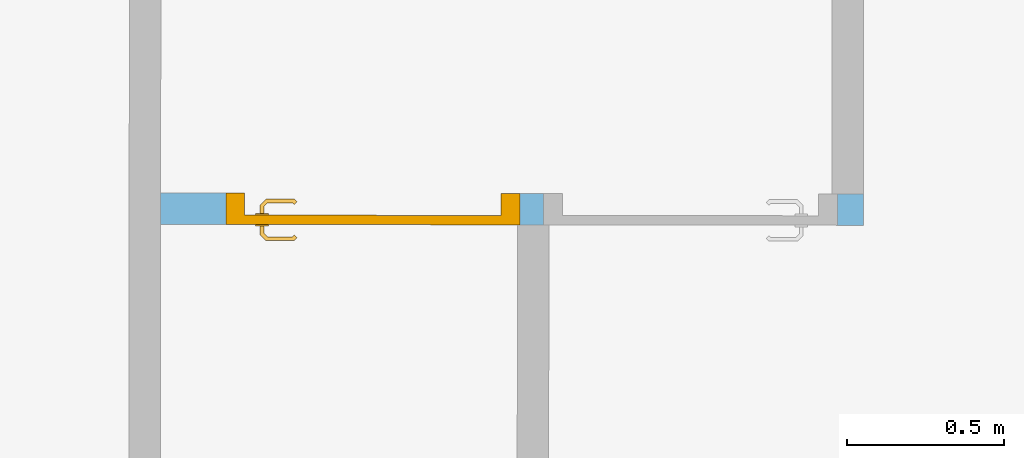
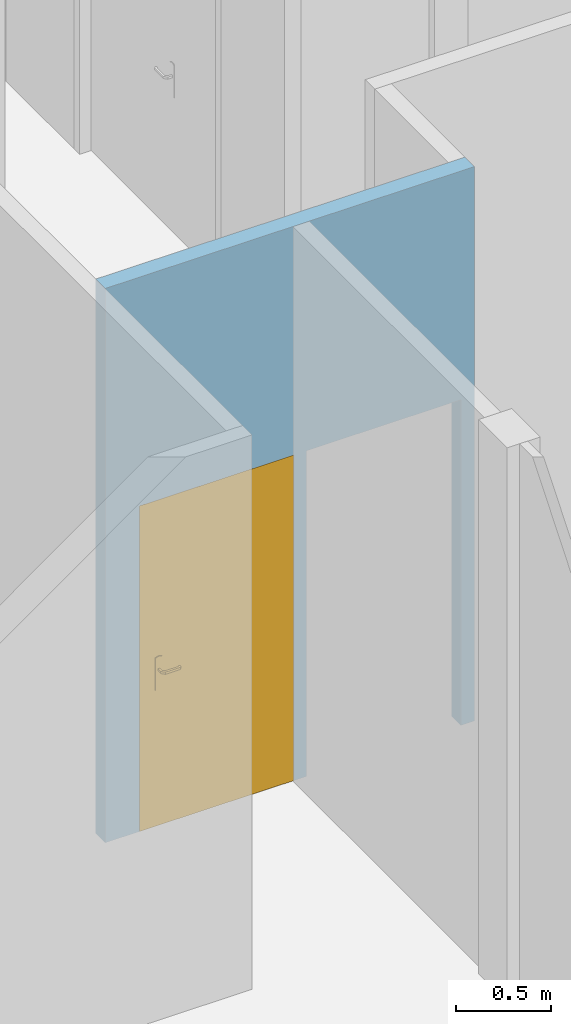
# One storey, part 43 of 101: 1 door, 2 openings, plus 1 element that does not belong to this part.
"""IFC2X3 building model written with IfcOpenShell, lengths in metres."""

from ifc_helpers import new_model, entity, si_unit, converted_unit, derived_unit, direction, frame, frame_2d, origin, place, context, subcontext, project, spatial, rectangle, extrude, faceted_brep, source, transform, mapped, material, material_list, layer, layer_set, layer_usage, type_object, type_shapes, element, fill, save


model = new_model("IFC2X3")

# Units and contexts
model_context = context("Model", 3, precision=1e-05, world=origin(), true_north=direction((6.123233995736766e-17, 1.0)))
body_context = subcontext(model_context, "Body", "Model", "MODEL_VIEW")
ifc_project = project(units=[si_unit("LENGTHUNIT", "METRE"), si_unit("AREAUNIT", "SQUARE_METRE"), converted_unit("PLANEANGLEUNIT", "DEGREE", entity("IfcPlaneAngleMeasure", 0.017453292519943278), si_unit("PLANEANGLEUNIT", "RADIAN"), dimensions=[0, 0, 0, 0, 0, 0, 0]), derived_unit("THERMALTRANSMITTANCEUNIT", [(si_unit("MASSUNIT", "GRAM", prefix="KILO"), 1), (si_unit("THERMODYNAMICTEMPERATUREUNIT", "KELVIN"), -1), (si_unit("TIMEUNIT", "SECOND"), -3)])], contexts=[model_context])

# Site, building, storey
site_placement = place(None, frame((1253.6752467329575, 2072.143113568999, 91.49999999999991), z_axis=(0.0, 0.0, 1.0), x_axis=(0.7237211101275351, 0.6900925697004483, 0.0)))
site = spatial("IfcSite", under=ifc_project, at=site_placement, Name="Surface", CompositionType="ELEMENT")
building_placement = place(site_placement, origin())
building = spatial("IfcBuilding", under=site, at=building_placement, CompositionType="ELEMENT")
storey_placement = place(building_placement, origin())
storey = spatial("IfcBuildingStorey", under=building, at=storey_placement, Name="0- Rdc", CompositionType="ELEMENT", Elevation=-5.764692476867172e-13)

# Wall, openings, door
ifc_material_1 = material(Name="OMD_Béton blanc")
ifc_layer = layer(ifc_material_1, 0.1)
ifc_layer_set = layer_set([ifc_layer], Name="Mur de base:MUR 10")
ifc_layer_usage = layer_usage(ifc_layer_set, "AXIS2", "NEGATIVE", 0.05)
wall_type = type_object("IfcWallType", Name="Mur de base:MUR 10", PredefinedType="STANDARD", material=ifc_layer_set)
wall_placement = place(storey_placement, frame((152.6208609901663, 3.9575793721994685, 0.0), z_axis=(0.0, 0.0, 1.0), x_axis=(-0.7228702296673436, 0.6909838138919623, 0.0)))
wall = element("IfcWallStandardCase", 1, at=wall_placement, inside=storey, type_object=wall_type, material=ifc_layer_usage, Name="Mur de base:MUR 10", ObjectType="Mur de base:MUR 10", context=body_context, shape_type="SweptSolid", body=[
    extrude(rectangle(XDim=2.235000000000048, YDim=0.10000000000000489, at=frame_2d((1.117500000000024, -1.0408340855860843e-15), x_axis=(-1.0, 0.0))), origin(), (0.0, 0.0, 1.0), 3.5499999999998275),
])
opening_1_placement = place(wall_placement, frame((0.08250000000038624, -0.05000000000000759, 0.0)))
element("IfcOpeningElement", 2, at=opening_1_placement, cuts=wall, Name="OMD_Porte 1V tunnel:80x204:1", ObjectType="Opening", context=body_context, shape_type="SweptSolid", body=[
    extrude(rectangle(XDim=2.0850000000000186, YDim=0.9349999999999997, at=frame_2d((1.0425000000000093, 0.4675000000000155), x_axis=(1.0, 0.0))), frame((0.0, 0.0, 0.0), z_axis=(0.0, 1.0, 0.0), x_axis=(0.0, 0.0, 1.0)), (0.0, 0.0, 1.0), 0.1),
])
opening_2_placement = place(wall_placement, frame((1.0925000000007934, -0.050000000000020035, 0.0)))
opening_2 = element("IfcOpeningElement", 3, at=opening_2_placement, cuts=wall, Name="OMD_Porte 1V tunnel:80x204:1", ObjectType="Opening", context=body_context, shape_type="SweptSolid", body=[
    extrude(rectangle(XDim=2.0850000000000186, YDim=0.9349999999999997, at=frame_2d((1.0425000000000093, 0.46749999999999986), x_axis=(1.0, 0.0))), frame((0.0, 0.0, 0.0), z_axis=(0.0, 1.0, 0.0), x_axis=(0.0, 0.0, 1.0)), (0.0, 0.0, 1.0), 0.1),
])
ifc_material_2 = material(Name="Porte - Poignée")
ifc_material_3 = material(Name="OMD_Peinture mur")
ifc_material_4 = material(Name="OMD_Bois")
ifc_material_list = material_list([ifc_material_2, ifc_material_3, ifc_material_4])
door_style = type_object("IfcDoorStyle", Name="OMD_Porte 1V tunnel:80x204", ConstructionType="NOTDEFINED", OperationType="NOTDEFINED", ParameterTakesPrecedence=False, Sizeable=False, material=ifc_material_list)
shared_shape = source(origin(), body_context, "Body", "Brep", [
    faceted_brep([(0.21297470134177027, 0.03500000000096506, 1.0077804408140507), (0.20900000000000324, 0.03500000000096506, 1.0069999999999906), (0.208999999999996, 0.03500000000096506, 0.9929999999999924), (0.21297470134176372, 0.03500000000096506, 0.9922195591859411), (0.21702529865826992, 0.03500000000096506, 0.9922195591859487), (0.22100000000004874, 0.03500000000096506, 0.9930000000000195), (0.22100000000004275, 0.03500000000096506, 1.0069999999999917), (0.2170252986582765, 0.03500000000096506, 1.007780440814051), (0.22100000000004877, 0.05748520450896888, 0.9930000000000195), (0.22100000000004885, 0.057485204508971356, 1.0069999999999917), (0.21702529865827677, 0.059131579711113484, 1.007780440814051), (0.23083890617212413, 0.07294518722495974, 1.007780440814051), (0.2291610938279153, 0.07699578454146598, 1.0077804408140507), (0.21297470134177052, 0.060809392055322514, 1.0077804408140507), (0.3206847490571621, 0.0664673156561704, 1.0077804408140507), (0.32354895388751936, 0.06933152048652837, 1.0077804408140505), (0.31588468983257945, 0.07699578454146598, 1.0077804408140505), (0.31420687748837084, 0.07294518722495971, 1.0077804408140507), (0.20900000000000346, 0.06245576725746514, 1.0069999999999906), (0.20900000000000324, 0.06245576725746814, 0.9929999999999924), (0.21297470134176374, 0.06080939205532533, 0.9922195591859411), (0.22916109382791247, 0.07699578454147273, 0.9922195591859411), (0.23083890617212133, 0.07294518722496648, 0.9922195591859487), (0.21702529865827, 0.05913157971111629, 0.9922195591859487), (0.32354895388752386, 0.06933152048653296, 0.9922195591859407), (0.3206847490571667, 0.06646731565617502, 0.9922195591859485), (0.3142068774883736, 0.07294518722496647, 0.9922195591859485), (0.3158846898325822, 0.07699578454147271, 0.9922195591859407), (0.23248528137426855, 0.0689704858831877, 0.9930000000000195), (0.23248528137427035, 0.06897048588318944, 1.0069999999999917), (0.22751471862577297, 0.0809704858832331, 1.0069999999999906), (0.22751471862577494, 0.08097048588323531, 0.9929999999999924), (0.2725228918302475, 0.06897048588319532, 0.9930000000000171), (0.3125605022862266, 0.06897048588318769, 0.9930000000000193), (0.31256050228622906, 0.06897048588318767, 1.0069999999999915), (0.2725228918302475, 0.0689704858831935, 1.0069999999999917), (0.2725228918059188, 0.07512492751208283, 1.0078781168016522), (0.31753106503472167, 0.08097048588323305, 1.0069999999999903), (0.2776005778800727, 0.08097048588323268, 1.0069999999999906), (0.31753106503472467, 0.08097048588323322, 0.9929999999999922), (0.2674452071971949, 0.08097048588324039, 0.9929999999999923), (0.2725228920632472, 0.07512492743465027, 0.9921218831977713), (0.317874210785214, 0.06365677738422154, 0.9930000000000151), (0.32635949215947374, 0.07214205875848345, 0.99299999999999), (0.3263594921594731, 0.07214205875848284, 1.0069999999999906), (0.317874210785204, 0.06365677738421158, 1.0069999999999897)], [[[0, 1, 2, 3, 4, 5, 6, 7]], [[6, 5, 8, 9]], [[9, 10, 7, 6]], [[10, 11, 12, 13, 0, 7]], [[14, 15, 16, 17]], [[13, 18, 1, 0]], [[2, 1, 18, 19]], [[19, 20, 3, 2]], [[20, 21, 22, 23, 4, 3]], [[24, 25, 26, 27]], [[23, 8, 5, 4]], [[9, 8, 28, 29]], [[29, 11, 10, 9]], [[12, 30, 18, 13]], [[19, 18, 30, 31]], [[31, 21, 20, 19]], [[22, 28, 8, 23]], [[29, 28, 32, 33, 34, 35]], [[11, 35, 36]], [[16, 37, 38]], [[30, 12, 38]], [[38, 12, 36]], [[36, 35, 17]], [[17, 16, 36]], [[35, 11, 29]], [[34, 17, 35]], [[11, 36, 12]], [[38, 36, 16]], [[31, 30, 38, 37, 39, 40]], [[40, 41, 21]], [[41, 40, 27]], [[21, 31, 40]], [[39, 27, 40]], [[41, 32, 22]], [[22, 21, 41]], [[26, 32, 41]], [[28, 22, 32]], [[32, 26, 33]], [[26, 41, 27]], [[42, 25, 24, 43, 44, 15, 14, 45]], [[34, 33, 42, 45]], [[45, 14, 17, 34]], [[15, 44, 37, 16]], [[39, 37, 44, 43]], [[43, 24, 27, 39]], [[25, 42, 33, 26]]]),
    faceted_brep([(0.21297470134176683, -0.004999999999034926, 1.0077804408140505), (0.2170252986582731, -0.004999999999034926, 1.007780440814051), (0.2210000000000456, -0.004999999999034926, 1.006999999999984), (0.22100000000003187, -0.004999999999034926, 0.9930000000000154), (0.21702529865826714, -0.004999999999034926, 0.9922195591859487), (0.21297470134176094, -0.004999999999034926, 0.992219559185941), (0.20900000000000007, -0.004999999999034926, 0.992999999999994), (0.20900000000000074, -0.004999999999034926, 1.0069999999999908), (0.20900000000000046, -0.03265095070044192, 1.0069999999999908), (0.21297470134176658, -0.03100457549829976, 1.0077804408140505), (0.22902358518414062, -0.04705345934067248, 1.0077804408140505), (0.2307013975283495, -0.04300286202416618, 1.007780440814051), (0.21702529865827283, -0.02932676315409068, 1.007780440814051), (0.3235218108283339, -0.039389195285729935, 1.0077804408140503), (0.3206576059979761, -0.03652499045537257, 1.0077804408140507), (0.3141797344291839, -0.04300286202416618, 1.0077804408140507), (0.31585754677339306, -0.04705345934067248, 1.0077804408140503), (0.22100000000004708, -0.027680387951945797, 1.0069999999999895), (0.22100000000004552, -0.02768038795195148, 0.9930000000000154), (0.21702529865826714, -0.029326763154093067, 0.9922195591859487), (0.23070139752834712, -0.04300286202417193, 0.9922195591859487), (0.2290235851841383, -0.0470534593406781, 0.992219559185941), (0.21297470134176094, -0.031004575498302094, 0.992219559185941), (0.32065760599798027, -0.036524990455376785, 0.9922195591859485), (0.3235218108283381, -0.03938919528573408, 0.9922195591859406), (0.31585754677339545, -0.047053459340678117, 0.9922195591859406), (0.3141797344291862, -0.04300286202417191, 0.9922195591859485), (0.20899999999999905, -0.032650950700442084, 0.9929999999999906), (0.22737720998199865, -0.051028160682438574, 1.0069999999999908), (0.23234777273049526, -0.03902816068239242, 1.0069999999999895), (0.23234777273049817, -0.03902816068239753, 0.9930000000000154), (0.22737720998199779, -0.051028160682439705, 0.9929999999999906), (0.2673076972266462, -0.05102816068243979, 1.0069999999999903), (0.272440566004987, -0.0451828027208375, 1.0078781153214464), (0.3175039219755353, -0.05102816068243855, 1.0069999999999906), (0.27244056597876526, -0.039028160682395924, 1.0069999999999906), (0.3125333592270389, -0.03902816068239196, 1.0069999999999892), (0.31253335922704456, -0.03902816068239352, 0.9930000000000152), (0.27244056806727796, -0.03902816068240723, 0.9930000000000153), (0.27244056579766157, -0.04518280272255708, 0.9921218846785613), (0.3175039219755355, -0.051028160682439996, 0.9929999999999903), (0.27757344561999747, -0.051028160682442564, 0.9929999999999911), (0.3178470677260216, -0.03371445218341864, 1.0069999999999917), (0.3263323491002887, -0.04219973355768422, 1.0069999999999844), (0.3263323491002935, -0.04219973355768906, 0.9929999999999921), (0.31784706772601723, -0.033714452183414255, 0.9930000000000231)], [[[0, 1, 2, 3, 4, 5, 6, 7]], [[8, 9, 0, 7]], [[9, 10, 11, 12, 1, 0]], [[13, 14, 15, 16]], [[12, 17, 2, 1]], [[3, 2, 17, 18]], [[18, 19, 4, 3]], [[19, 20, 21, 22, 5, 4]], [[23, 24, 25, 26]], [[22, 27, 6, 5]], [[7, 6, 27, 8]], [[28, 10, 9, 8]], [[11, 29, 17, 12]], [[18, 17, 29, 30]], [[30, 20, 19, 18]], [[21, 31, 27, 22]], [[8, 27, 31, 28]], [[32, 33, 10]], [[33, 32, 16]], [[10, 28, 32]], [[34, 16, 32]], [[33, 35, 11]], [[11, 10, 33]], [[15, 35, 33]], [[29, 11, 35]], [[35, 15, 36]], [[15, 33, 16]], [[30, 29, 35, 36, 37, 38]], [[20, 38, 39]], [[25, 40, 41]], [[31, 21, 41]], [[41, 21, 39]], [[39, 38, 26]], [[26, 25, 39]], [[38, 20, 30]], [[37, 26, 38]], [[20, 39, 21]], [[41, 39, 25]], [[28, 31, 41, 40, 34, 32]], [[42, 14, 13, 43, 44, 24, 23, 45]], [[43, 13, 16, 34]], [[14, 42, 36, 15]], [[37, 36, 42, 45]], [[45, 23, 26, 37]], [[24, 44, 40, 25]], [[34, 40, 44, 43]]]),
    faceted_brep([(0.22535276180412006, 0.030000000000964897, 0.8660039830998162), (0.2350000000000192, 0.030000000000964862, 0.8700000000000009), (0.2350000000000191, 0.030000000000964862, 1.0800000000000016), (0.2253527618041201, 0.030000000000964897, 1.0839960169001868), (0.21500000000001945, 0.030000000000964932, 1.0853589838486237), (0.20464723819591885, 0.03000000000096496, 1.0839960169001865), (0.19500000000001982, 0.030000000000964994, 1.0800000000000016), (0.19500000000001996, 0.030000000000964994, 0.8700000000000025), (0.20464723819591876, 0.03000000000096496, 0.866003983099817), (0.21500000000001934, 0.030000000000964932, 0.8646410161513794), (0.22535276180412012, 0.0350000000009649, 1.0839960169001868), (0.2350000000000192, 0.03500000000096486, 1.0800000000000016), (0.23500000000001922, 0.03500000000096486, 0.8700000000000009), (0.22535276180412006, 0.0350000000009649, 0.8660039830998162), (0.21500000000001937, 0.03500000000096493, 0.8646410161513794), (0.20464723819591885, 0.03500000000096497, 0.866003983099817), (0.19500000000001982, 0.035000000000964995, 0.8700000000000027), (0.19500000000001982, 0.035000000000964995, 1.0800000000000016), (0.20464723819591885, 0.03500000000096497, 1.0839960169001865), (0.21500000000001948, 0.03500000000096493, 1.0853589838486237)], [[[0, 1, 2, 3, 4, 5, 6, 7, 8, 9]], [[10, 11, 12, 13, 14, 15, 16, 17, 18, 19]], [[11, 10, 3, 2]], [[3, 10, 19, 4]], [[19, 18, 5, 4]], [[18, 17, 6, 5]], [[7, 6, 17, 16]], [[16, 15, 8, 7]], [[8, 15, 14, 9]], [[14, 13, 0, 9]], [[13, 12, 1, 0]], [[2, 1, 12, 11]]]),
    faceted_brep([(0.22535276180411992, -0.004999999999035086, 0.8660039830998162), (0.2350000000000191, -0.004999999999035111, 0.8700000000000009), (0.23500000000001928, -0.004999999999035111, 1.0800000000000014), (0.22535276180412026, -0.004999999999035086, 1.0839960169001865), (0.2150000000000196, -0.004999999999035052, 1.0853589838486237), (0.20464723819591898, -0.0049999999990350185, 1.0839960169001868), (0.19500000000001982, -0.004999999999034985, 1.0800000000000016), (0.19500000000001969, -0.004999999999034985, 0.8700000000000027), (0.20464723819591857, -0.0049999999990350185, 0.8660039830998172), (0.21500000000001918, -0.004999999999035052, 0.8646410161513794), (0.22535276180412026, 0.0, 1.0839960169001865), (0.2350000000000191, 0.0, 1.0800000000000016), (0.2350000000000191, 0.0, 0.8700000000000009), (0.22535276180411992, 0.0, 0.8660039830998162), (0.21500000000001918, 0.0, 0.8646410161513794), (0.20464723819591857, 0.0, 0.8660039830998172), (0.19500000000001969, 0.0, 0.8700000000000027), (0.19500000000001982, 0.0, 1.0800000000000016), (0.20464723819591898, 0.0, 1.0839960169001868), (0.2150000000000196, 0.0, 1.0853589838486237)], [[[0, 1, 2, 3, 4, 5, 6, 7, 8, 9]], [[10, 11, 12, 13, 14, 15, 16, 17, 18, 19]], [[16, 15, 8, 7]], [[8, 15, 14, 9]], [[14, 13, 0, 9]], [[13, 12, 1, 0]], [[2, 1, 12, 11]], [[11, 10, 3, 2]], [[3, 10, 19, 4]], [[19, 18, 5, 4]], [[18, 17, 6, 5]], [[7, 6, 17, 16]]]),
    faceted_brep([(0.14500000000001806, 0.030000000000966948, 0.0), (0.9900000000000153, 0.030000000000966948, 0.0), (0.9900000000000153, 0.0, 0.0), (0.14500000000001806, 0.0, 0.0), (0.14500000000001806, 0.030000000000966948, 2.04), (0.14500000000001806, 0.0, 2.04), (0.9900000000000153, 0.0, 2.04), (0.9900000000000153, 0.030000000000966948, 2.04)], [[[0, 1, 2, 3]], [[4, 0, 3, 5]], [[5, 3, 2, 6]], [[6, 2, 1, 7]], [[7, 1, 0, 4]], [[4, 5, 6, 7]]]),
    faceted_brep([(0.10000000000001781, 0.0, 0.0), (0.10000000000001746, 0.10000000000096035, 0.0), (0.16000000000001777, 0.10000000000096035, 0.0), (0.16000000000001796, 0.03000000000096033, 0.0), (0.145000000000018, 0.03000000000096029, 0.0), (0.14500000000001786, 0.0, 0.0), (0.145000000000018, 0.0, 2.04), (0.9900000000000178, 0.0, 2.0400000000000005), (0.9900000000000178, 0.0, 0.0), (1.0350000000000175, 0.0, 0.0), (1.0350000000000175, 0.0, 2.085), (0.10000000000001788, 0.0, 2.085), (0.14500000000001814, 0.030000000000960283, 2.04), (0.16000000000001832, 0.03000000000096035, 2.0249999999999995), (0.9750000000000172, 0.03000000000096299, 2.0249999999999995), (0.9750000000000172, 0.03000000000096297, 0.0), (0.9900000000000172, 0.03000000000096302, 0.0), (0.9900000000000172, 0.03000000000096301, 2.0399999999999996), (0.16000000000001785, 0.10000000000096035, 2.0249999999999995), (0.1000000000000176, 0.10000000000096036, 2.085), (1.0350000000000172, 0.10000000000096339, 2.085), (1.0350000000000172, 0.10000000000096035, 0.0), (0.9750000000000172, 0.10000000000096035, 0.0), (0.9750000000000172, 0.10000000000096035, 2.025)], [[[0, 1, 2, 3, 4, 5]], [[5, 6, 7, 8, 9, 10, 11, 0]], [[4, 12, 6, 5]], [[3, 13, 14, 15, 16, 17, 12, 4]], [[2, 18, 13, 3]], [[1, 19, 20, 21, 22, 23, 18, 2]], [[0, 11, 19, 1]], [[10, 9, 21, 20]], [[9, 8, 16, 15, 22, 21]], [[17, 16, 8, 7]], [[23, 22, 15, 14]], [[12, 17, 7, 6]], [[18, 23, 14, 13]], [[11, 10, 20, 19]]]),
])
type_shapes(door_style, [shared_shape])
door_placement = place(opening_2_placement, frame((1.035000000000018, 0.10000000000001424, 0.0), z_axis=(0.0, 0.0, 1.0), x_axis=(-1.0, 0.0, 0.0)))
door = element("IfcDoor", 4, at=door_placement, inside=storey, type_object=door_style, material=ifc_material_list, Name="OMD_Porte 1V tunnel:80x204", ObjectType="OMD_Porte 1V tunnel:80x204", OverallHeight=2.0850000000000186, OverallWidth=0.9350000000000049, context=body_context, shape_type="MappedRepresentation", body=[
    mapped(shared_shape, transform((0.0, 0.0, 0.0), scale=1.0)),
])
fill(opening_2, door)

save(model, "model.ifc")
